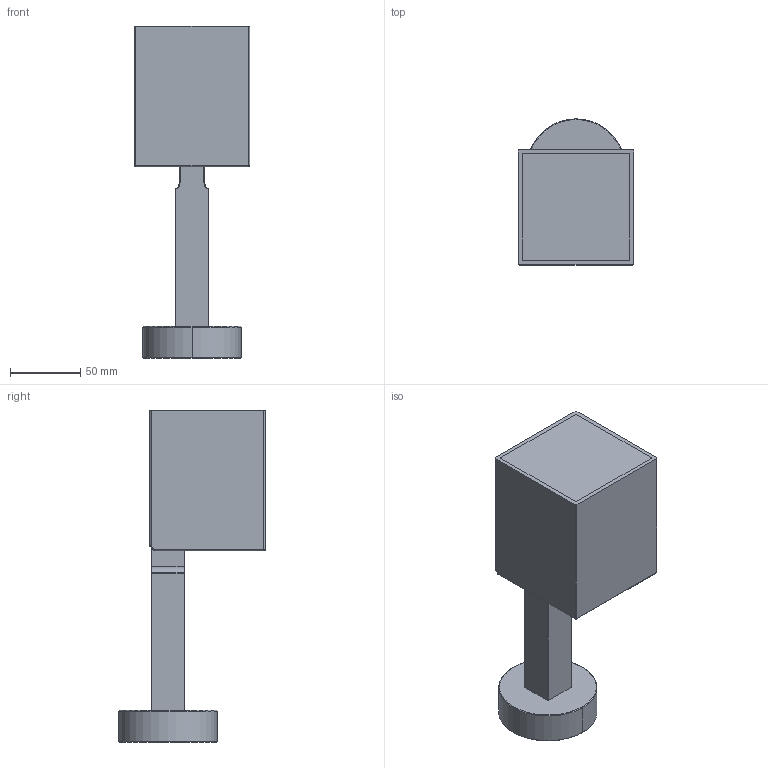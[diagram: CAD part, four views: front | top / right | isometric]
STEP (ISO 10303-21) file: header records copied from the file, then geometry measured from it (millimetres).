
FILE_DESCRIPTION((''),'2;1');
FILE_NAME('PLUS_MURO_SW0001','2026-04-02T16:52:46',('Piccioli'),(''),'CREO PARAMETRIC BY PTC INC, 2025010','CREO PARAMETRIC BY PTC INC, 2025010','');
FILE_SCHEMA(('CONFIG_CONTROL_DESIGN'));
Length unit declared in the file: millimetre
Products named in the file (1): PLUS_MURO_SW0001
Bounding box: 82 x 104.25 x 236.01 mm (x, y, z)
Surface area: 77576.5 mm2 (no closed solid volume)
Topology: 0 solids, 4 shells, 71 faces, 161 edges, 96 vertices
Faces by surface type: cylinder 30, plane 21, sphere 10, torus 6, cone 4
Entity records: 1998 total; most frequent: DIRECTION 381, CARTESIAN_POINT 328, ORIENTED_EDGE 306, EDGE_CURVE 161, AXIS2_PLACEMENT_3D 149, VERTEX_POINT 96, VECTOR 83, LINE 83
